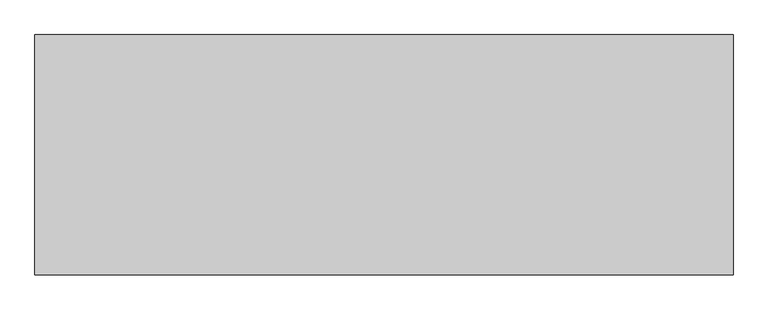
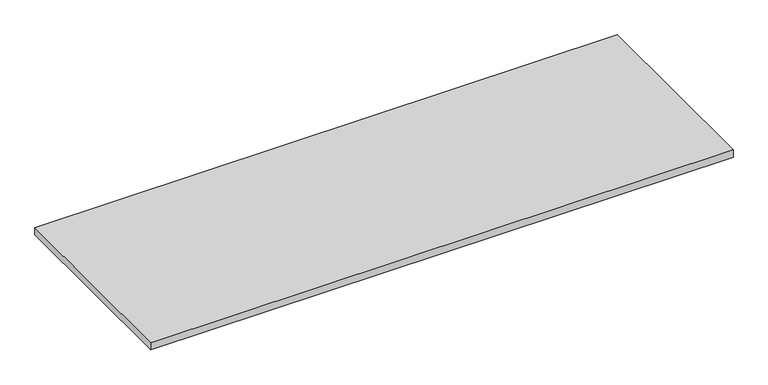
"""IFC4 building model written with IfcOpenShell, lengths in millimetres: furniture geometry, BK Library - Top Plate - HYOT : BK Library - Top Plate - HYOT."""

from ifc_helpers import new_model, si_unit, frame, origin, place, context, project, spatial, polyline, outline, extrude, source, transform, mapped, element, save


def furniture_34703eb2(model_context):
    return source(origin(), model_context, "Body", "SweptSolid", [
        extrude(outline(polyline([(740.5, -255.0), (-740.5, -255.0), (-740.5, 255.0), (740.5, 255.0), (740.5, -255.0)])), frame((0.0, 0.0, -9.5), z_axis=(0.0, 0.0, 1.0), x_axis=(1.0, 0.0, 0.0)), (0.0, 0.0, 1.0), 19.0),
    ])


if __name__ == "__main__":
    model = new_model("IFC4")
    model_context = context("Model", 3, world=origin())
    ifc_project = project(units=[si_unit("LENGTHUNIT", "METRE", prefix="MILLI")], contexts=[model_context])
    site = spatial("IfcSite", under=ifc_project)
    building = spatial("IfcBuilding", under=site)
    placement = place(None, origin())
    furniture_shape = furniture_34703eb2(model_context)
    element("IfcFurniture", 1, ObjectType="BK Library - Top Plate - HYOT : BK Library - Top Plate - HYOT", at=placement, inside=building, context=model_context, shape_type="MappedRepresentation", body=[
        mapped(furniture_shape, transform((0.0, 0.0, 0.0), x_axis=(1.0, 0.0, 0.0), y_axis=(0.0, 1.0, 0.0), z_axis=(0.0, 0.0, 1.0))),
    ])
    save(model, "model.ifc")
